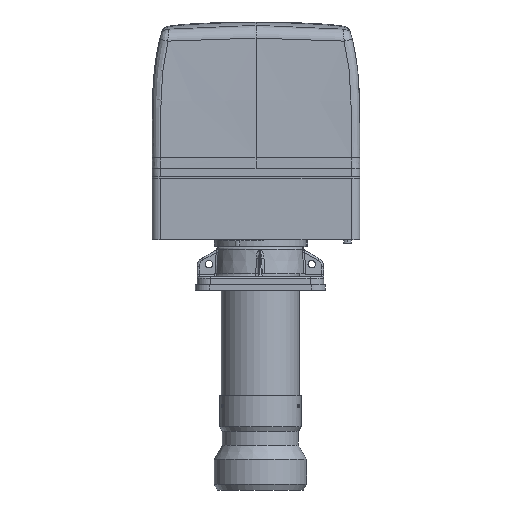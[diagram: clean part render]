
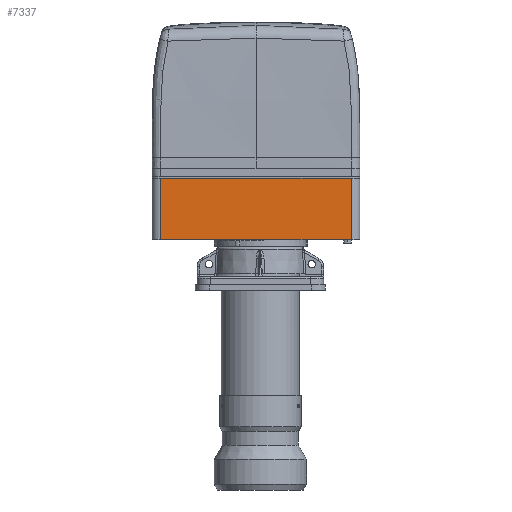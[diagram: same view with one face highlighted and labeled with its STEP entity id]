
A CAD part, front view. The second image highlights one B-rep face of the part: STEP entity #7337.
In plain terms, the highlighted planar face has unit normal (0, -1, 0).
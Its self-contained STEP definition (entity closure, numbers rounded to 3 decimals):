
#5314 = LINE ( 'NONE', #29367, #39220 ) ;
#6020 = EDGE_CURVE ( 'NONE', #77287, #66361, #67849, .T. ) ;
#7337 = ADVANCED_FACE ( 'NONE', ( #80678 ), #18445, .F. ) ;
#9781 = DIRECTION ( 'NONE',  ( 1., 0., 0. ) ) ;
#10130 = CARTESIAN_POINT ( 'NONE',  ( -3.667, -202.561, 298.296 ) ) ;
#10401 = DIRECTION ( 'NONE',  ( 0., 0., -1. ) ) ;
#11415 = ORIENTED_EDGE ( 'NONE', *, *, #60274, .F. ) ;
#12306 = LINE ( 'NONE', #43593, #48959 ) ;
#12766 = CARTESIAN_POINT ( 'NONE',  ( -3.667, -202.561, 298.296 ) ) ;
#14722 = CARTESIAN_POINT ( 'NONE',  ( -3.667, -202.561, 300.796 ) ) ;
#18445 = PLANE ( 'NONE',  #70738 ) ;
#18493 = VERTEX_POINT ( 'NONE', #28080 ) ;
#21435 = CARTESIAN_POINT ( 'NONE',  ( 274.333, -202.561, 298.296 ) ) ;
#24269 = ORIENTED_EDGE ( 'NONE', *, *, #37671, .F. ) ;
#24972 = DIRECTION ( 'NONE',  ( 1., 0., 0. ) ) ;
#28060 = ORIENTED_EDGE ( 'NONE', *, *, #6020, .T. ) ;
#28080 = CARTESIAN_POINT ( 'NONE',  ( -3.667, -202.561, 387.796 ) ) ;
#29367 = CARTESIAN_POINT ( 'NONE',  ( 274.333, -202.561, 300.796 ) ) ;
#31325 = DIRECTION ( 'NONE',  ( 0., 1., 0. ) ) ;
#37671 = EDGE_CURVE ( 'NONE', #18493, #77370, #12306, .T. ) ;
#38511 = ORIENTED_EDGE ( 'NONE', *, *, #69109, .T. ) ;
#39220 = VECTOR ( 'NONE', #10401, 1000. ) ;
#39745 = CARTESIAN_POINT ( 'NONE',  ( 274.333, -202.561, 387.796 ) ) ;
#43593 = CARTESIAN_POINT ( 'NONE',  ( -3.667, -202.561, 387.796 ) ) ;
#43615 = EDGE_LOOP ( 'NONE', ( #24269, #38511, #28060, #11415 ) ) ;
#48959 = VECTOR ( 'NONE', #24972, 1000. ) ;
#50083 = LINE ( 'NONE', #14722, #82061 ) ;
#60274 = EDGE_CURVE ( 'NONE', #77370, #66361, #5314, .T. ) ;
#63004 = CARTESIAN_POINT ( 'NONE',  ( -3.667, -202.561, 300.796 ) ) ;
#66361 = VERTEX_POINT ( 'NONE', #21435 ) ;
#67849 = LINE ( 'NONE', #10130, #68604 ) ;
#68604 = VECTOR ( 'NONE', #9781, 1000. ) ;
#69109 = EDGE_CURVE ( 'NONE', #18493, #77287, #50083, .T. ) ;
#70738 = AXIS2_PLACEMENT_3D ( 'NONE', #63004, #31325, #75892 ) ;
#75892 = DIRECTION ( 'NONE',  ( -1., 0., 0. ) ) ;
#77287 = VERTEX_POINT ( 'NONE', #12766 ) ;
#77370 = VERTEX_POINT ( 'NONE', #39745 ) ;
#78532 = DIRECTION ( 'NONE',  ( 0., 0., -1. ) ) ;
#80678 = FACE_OUTER_BOUND ( 'NONE', #43615, .T. ) ;
#82061 = VECTOR ( 'NONE', #78532, 1000. ) ;
